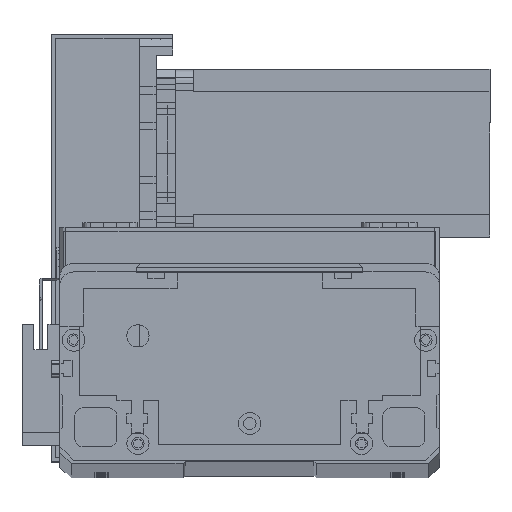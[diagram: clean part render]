
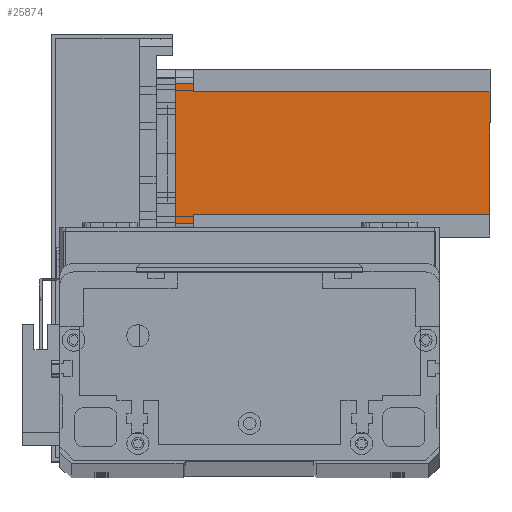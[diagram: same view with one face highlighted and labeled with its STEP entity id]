
A CAD part, top view. The second image highlights one B-rep face of the part: STEP entity #25874.
In plain terms, the highlighted planar face has unit normal (0, 0, 1) as drawn and (0, -1, 0) by its records, which use the part's own axes.
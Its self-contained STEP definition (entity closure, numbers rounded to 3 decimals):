
#1612 = CARTESIAN_POINT ( 'NONE',  ( 8., 0., -112.5 ) ) ;
#1738 = LINE ( 'NONE', #15303, #26733 ) ;
#2260 = DIRECTION ( 'NONE',  ( 0., 0., -1. ) ) ;
#2443 = CARTESIAN_POINT ( 'NONE',  ( 8., 0., -6.5 ) ) ;
#2499 = LINE ( 'NONE', #13857, #21996 ) ;
#2527 = VECTOR ( 'NONE', #29730, 1000. ) ;
#2981 = ORIENTED_EDGE ( 'NONE', *, *, #5966, .T. ) ;
#3013 = EDGE_CURVE ( 'NONE', #19376, #3519, #9105, .T. ) ;
#3519 = VERTEX_POINT ( 'NONE', #17951 ) ;
#3638 = EDGE_CURVE ( 'NONE', #3519, #5884, #2499, .T. ) ;
#4142 = CARTESIAN_POINT ( 'NONE',  ( 52., 0., -6.5 ) ) ;
#4251 = EDGE_CURVE ( 'NONE', #23683, #19421, #1738, .T. ) ;
#5081 = EDGE_CURVE ( 'NONE', #16686, #19421, #25590, .T. ) ;
#5518 = EDGE_CURVE ( 'NONE', #24275, #16686, #13566, .T. ) ;
#5884 = VERTEX_POINT ( 'NONE', #20451 ) ;
#5966 = EDGE_CURVE ( 'NONE', #24275, #8440, #28484, .T. ) ;
#6604 = LINE ( 'NONE', #15154, #19604 ) ;
#6782 = EDGE_CURVE ( 'NONE', #19376, #8440, #6604, .T. ) ;
#6866 = CARTESIAN_POINT ( 'NONE',  ( 5., 0., -6.5 ) ) ;
#8440 = VERTEX_POINT ( 'NONE', #13053 ) ;
#8651 = EDGE_CURVE ( 'NONE', #23683, #5884, #12195, .T. ) ;
#8844 = CARTESIAN_POINT ( 'NONE',  ( 8., 0., -6.5 ) ) ;
#8905 = DIRECTION ( 'NONE',  ( -1., 0., 0. ) ) ;
#9105 = LINE ( 'NONE', #30160, #2527 ) ;
#9583 = PLANE ( 'NONE',  #14648 ) ;
#10192 = ORIENTED_EDGE ( 'NONE', *, *, #5081, .F. ) ;
#12195 = LINE ( 'NONE', #24209, #30475 ) ;
#13053 = CARTESIAN_POINT ( 'NONE',  ( 52., 0., -112.5 ) ) ;
#13491 = CARTESIAN_POINT ( 'NONE',  ( 8., 0., -112.5 ) ) ;
#13566 = LINE ( 'NONE', #13491, #19301 ) ;
#13596 = VECTOR ( 'NONE', #8905, 1000. ) ;
#13633 = DIRECTION ( 'NONE',  ( 0., 0., 1. ) ) ;
#13857 = CARTESIAN_POINT ( 'NONE',  ( 55., 0., -112.5 ) ) ;
#13977 = DIRECTION ( 'NONE',  ( 0., 0., 1. ) ) ;
#14562 = DIRECTION ( 'NONE',  ( 0., 0., -1. ) ) ;
#14648 = AXIS2_PLACEMENT_3D ( 'NONE', #18908, #17020, #2260 ) ;
#15030 = ORIENTED_EDGE ( 'NONE', *, *, #3638, .T. ) ;
#15154 = CARTESIAN_POINT ( 'NONE',  ( 52., 0., -112.5 ) ) ;
#15192 = DIRECTION ( 'NONE',  ( 0., 0., -1. ) ) ;
#15303 = CARTESIAN_POINT ( 'NONE',  ( 5., 0., -112.5 ) ) ;
#16686 = VERTEX_POINT ( 'NONE', #2443 ) ;
#17020 = DIRECTION ( 'NONE',  ( 0., -1., 0. ) ) ;
#17211 = CARTESIAN_POINT ( 'NONE',  ( 0., 0., -112.5 ) ) ;
#17313 = DIRECTION ( 'NONE',  ( 1., 0., 0. ) ) ;
#17552 = ORIENTED_EDGE ( 'NONE', *, *, #4251, .T. ) ;
#17951 = CARTESIAN_POINT ( 'NONE',  ( 55., 0., -6.5 ) ) ;
#18802 = ORIENTED_EDGE ( 'NONE', *, *, #6782, .F. ) ;
#18908 = CARTESIAN_POINT ( 'NONE',  ( 0., 0., -112.5 ) ) ;
#19301 = VECTOR ( 'NONE', #13977, 1000. ) ;
#19376 = VERTEX_POINT ( 'NONE', #4142 ) ;
#19421 = VERTEX_POINT ( 'NONE', #6866 ) ;
#19604 = VECTOR ( 'NONE', #15192, 1000. ) ;
#20451 = CARTESIAN_POINT ( 'NONE',  ( 55., 0., 0. ) ) ;
#21996 = VECTOR ( 'NONE', #13633, 1000. ) ;
#23683 = VERTEX_POINT ( 'NONE', #28486 ) ;
#23888 = FACE_OUTER_BOUND ( 'NONE', #27335, .T. ) ;
#24209 = CARTESIAN_POINT ( 'NONE',  ( 0., 0., 0. ) ) ;
#24275 = VERTEX_POINT ( 'NONE', #1612 ) ;
#25282 = ORIENTED_EDGE ( 'NONE', *, *, #8651, .F. ) ;
#25590 = LINE ( 'NONE', #8844, #13596 ) ;
#25742 = DIRECTION ( 'NONE',  ( 1., 0., 0. ) ) ;
#25874 = ADVANCED_FACE ( 'NONE', ( #23888 ), #9583, .T. ) ;
#26733 = VECTOR ( 'NONE', #14562, 1000. ) ;
#27335 = EDGE_LOOP ( 'NONE', ( #28708, #15030, #25282, #17552, #10192, #28254, #2981, #18802 ) ) ;
#27741 = VECTOR ( 'NONE', #17313, 1000. ) ;
#28254 = ORIENTED_EDGE ( 'NONE', *, *, #5518, .F. ) ;
#28484 = LINE ( 'NONE', #17211, #27741 ) ;
#28486 = CARTESIAN_POINT ( 'NONE',  ( 5., 0., 0. ) ) ;
#28708 = ORIENTED_EDGE ( 'NONE', *, *, #3013, .T. ) ;
#29730 = DIRECTION ( 'NONE',  ( 1., 0., 0. ) ) ;
#30160 = CARTESIAN_POINT ( 'NONE',  ( 52., 0., -6.5 ) ) ;
#30475 = VECTOR ( 'NONE', #25742, 1000. ) ;
